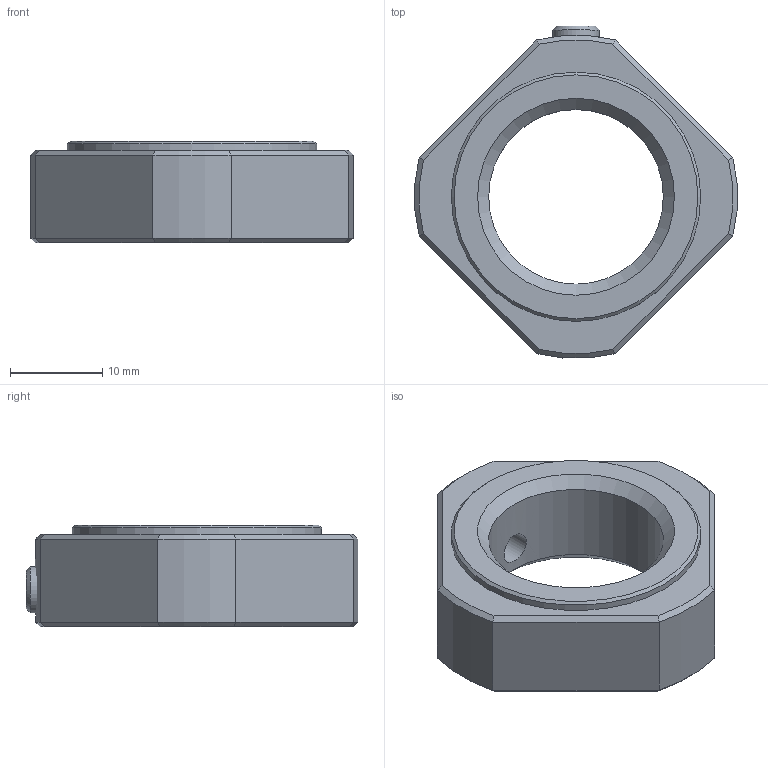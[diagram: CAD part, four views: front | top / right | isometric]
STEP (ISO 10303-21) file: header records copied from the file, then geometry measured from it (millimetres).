
FILE_DESCRIPTION(('STEP AP214'), '1');
FILE_NAME('Ñòîïîðíàÿ ãàéêà BS-M20x1 (êàê ó íàñ íà ñàéòå)', '', ('UNSPECIFIED'), ('UNSPECIFIED'), 'ASCON STEP Converter 1.6', 'ASCON Math Kernel', '');
FILE_SCHEMA(('AUTOMOTIVE_DESIGN { 1 0 10303 214 3 1 1}'));
Length unit declared in the file: millimetre
Products named in the file (3): 20鎖固螺帽(模型組態)
Assembly tree (2 placements, depth 2):
  (unnamed)
    20鎖固螺帽(模型組態)
    (unnamed)
Bounding box: 34.88 x 35.94 x 11 mm (x, y, z)
Volume: 5785.6 mm3; surface area: 2973.9 mm2
Topology: 2 solids, 2 shells, 46 faces, 103 edges, 62 vertices
Faces by surface type: plane 23, cone 14, cylinder 8, bspline 1
Full cylindrical faces by diameter (mm): 3.4 x1, 5 x1, 18.917 x1, 27 x1
Entity records: 2466 total; most frequent: CARTESIAN_POINT 1016, DIRECTION 184, ORIENTED_EDGE 182, EDGE_CURVE 91, AXIS2_PLACEMENT_3D 74, EDGE_LOOP 62, VERTEX_POINT 61, COLOUR_RGB 48
